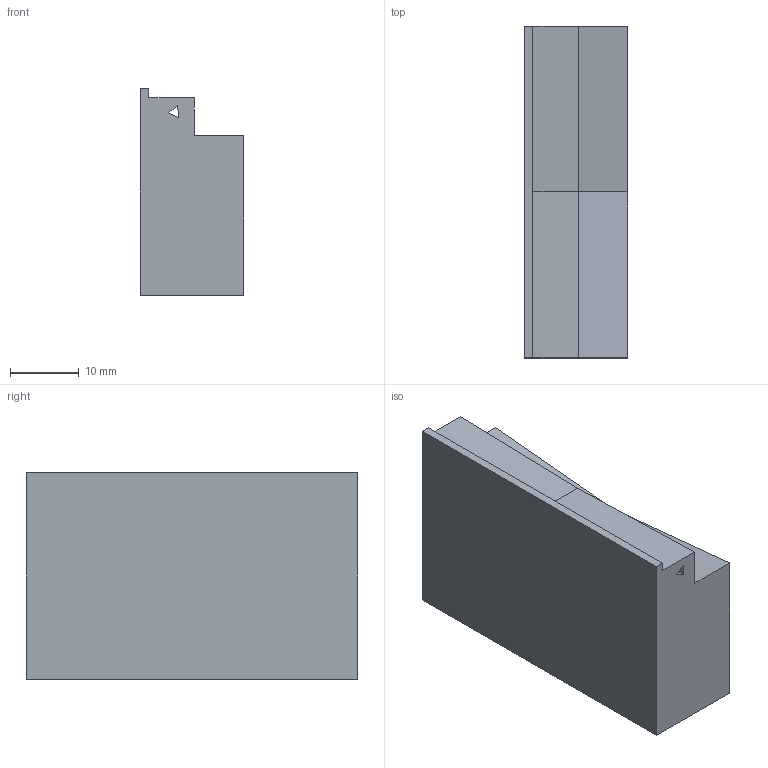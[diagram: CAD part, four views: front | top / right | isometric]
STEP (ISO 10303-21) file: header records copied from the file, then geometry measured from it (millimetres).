
FILE_DESCRIPTION(('Open CASCADE Model'),'2;1');
FILE_NAME('Open CASCADE Shape Model','2021-05-05T17:32:02',('Author'),( 'Open CASCADE'),'Open CASCADE STEP processor 7.4','Open CASCADE 7.4' ,'Unknown');
FILE_SCHEMA(('AUTOMOTIVE_DESIGN { 1 0 10303 214 1 1 1 1 }'));
Length unit declared in the file: millimetre
Products named in the file (1): Open CASCADE STEP translator 7.4 1352
Bounding box: 15.03 x 48.24 x 30.05 mm (x, y, z)
Volume: 15696 mm3; surface area: 5408.9 mm2
Topology: 1 solids, 1 shells, 22 faces, 57 edges, 38 vertices
Faces by surface type: plane 22
Entity records: 1416 total; most frequent: CARTESIAN_POINT 232, DIRECTION 217, LINE 171, VECTOR 171, ORIENTED_EDGE 114, PCURVE 114, DEFINITIONAL_REPRESENTATION 114, EDGE_CURVE 57
